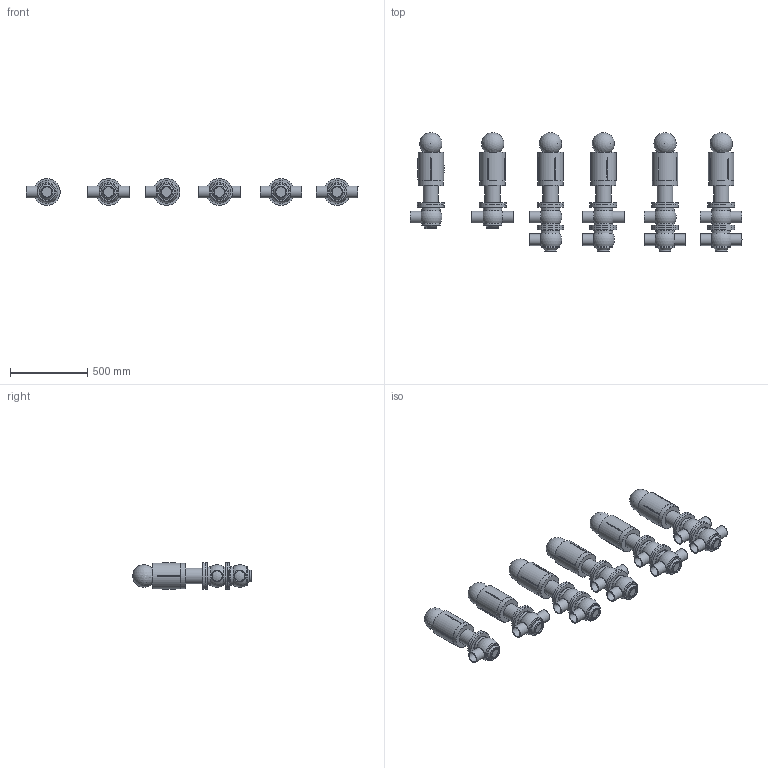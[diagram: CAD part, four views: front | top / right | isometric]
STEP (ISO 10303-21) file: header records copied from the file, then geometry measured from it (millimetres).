
FILE_DESCRIPTION(/* description */ (''),/* implementation_level */ '2;1');
FILE_NAME(/* name */ 'C:\Users\marz-m\Desktop\PDF\BBZQ 3D STEP\BBZQ-DN76.1-CIL.156.stp',/* time_stamp */ '2018-04-13T15:21:48+02:00',/* author */ ('marz-m'),/* organization */ (''),/* preprocessor_version */ 'ST-DEVELOPER v17',/* originating_system */ 'Autodesk Inventor 2018',/* authorisation */ '');
FILE_SCHEMA (('AUTOMOTIVE_DESIGN { 1 0 10303 214 3 1 1 }'));
Length unit declared in the file: millimetre
Products named in the file (8): BBZQ-DN76.1-CIL.156; assemblaggio dn80 per cil 108-156; CIL156; SAGOMA-GIOTTO-; COR-INF-L-BBZQ-DN76.1; COR-SUP-L-BBZQ-DN76.1; COR-SUP-T-BBZQ-DN76.1; COR-INF-T-BBZQ-DN76.1
Assembly tree (28 placements, depth 2):
  BBZQ-DN76.1-CIL.156
    assemblaggio dn80 per cil 108-156  x6
    COR-INF-L-BBZQ-DN76.1  x3
    COR-INF-T-BBZQ-DN76.1  x3
    COR-SUP-L-BBZQ-DN76.1  x2
    COR-SUP-T-BBZQ-DN76.1  x2
    CIL156  x6
    SAGOMA-GIOTTO-  x6
Bounding box: 2155.15 x 769.97 x 174 mm (x, y, z)
Volume: 67619666.4 mm3; surface area: 3596497.7 mm2
Topology: 28 solids, 28 shells, 386 faces, 952 edges, 704 vertices
Faces by surface type: cylinder 112, plane 109, cone 72, torus 38, sphere 31, bspline 24
Full cylindrical faces by diameter (mm): 20 x12, 66.1 x21, 76.1 x21, 100 x6, 120 x20, 164.5 x6, 166 x6, 174 x20
Entity records: 4071 total; most frequent: CARTESIAN_POINT 903, DIRECTION 708, ORIENTED_EDGE 524, AXIS2_PLACEMENT_3D 333, EDGE_CURVE 262, VERTEX_POINT 196, CIRCLE 194, EDGE_LOOP 134
